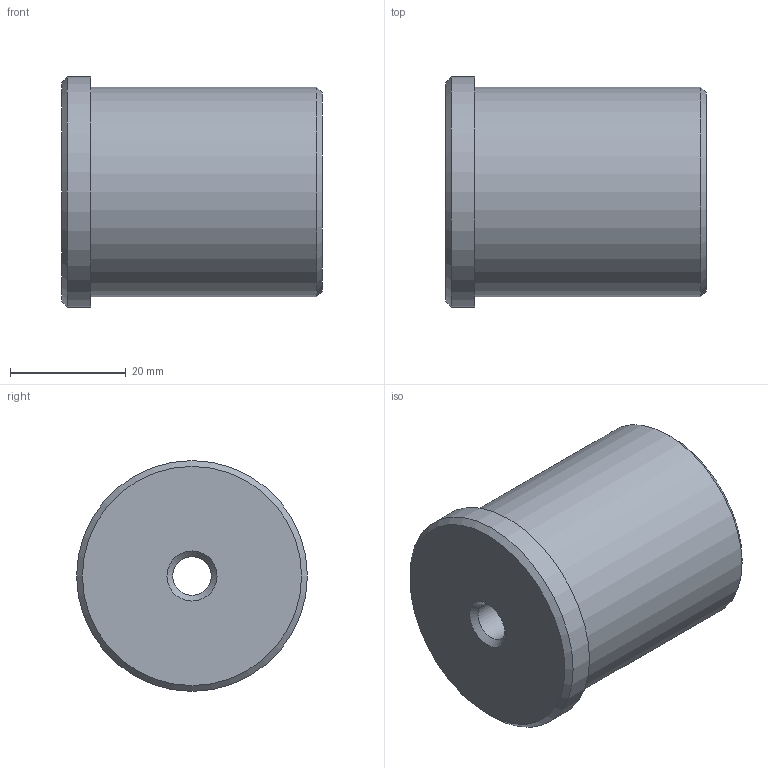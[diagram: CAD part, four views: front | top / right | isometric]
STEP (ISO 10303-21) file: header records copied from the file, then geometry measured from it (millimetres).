
FILE_DESCRIPTION( ( 'Unknown' ), '1' );
FILE_NAME( 'F:/navkite transat/construction/2016/3D ET ASSEMBLAGES/AMI/AMI 01.stp', 'Unknown', ( 'GMA' ), ( 'Unknown' ), 'XStep 1.0', 'Unknown', ' ' );
FILE_SCHEMA( ( 'automotive_design' ) );
Length unit declared in the file: millimetre
Products named in the file (1): 1
Bounding box: 45 x 39.8 x 39.8 mm (x, y, z)
Volume: 45687.4 mm3; surface area: 8368.4 mm2
Topology: 1 solids, 1 shells, 10 faces, 19 edges, 12 vertices
Faces by surface type: cone 4, plane 3, cylinder 3
Full cylindrical faces by diameter (mm): 6.647 x1, 36.2 x1, 39.8 x1
Entity records: 304 total; most frequent: DIRECTION 42, CARTESIAN_POINT 31, AXIS2_PLACEMENT_3D 21, EDGE_LOOP 20, ORIENTED_EDGE 20, FACE_OUTER_BOUND 13, STYLED_ITEM 10, PRESENTATION_STYLE_ASSIGNMENT 10
